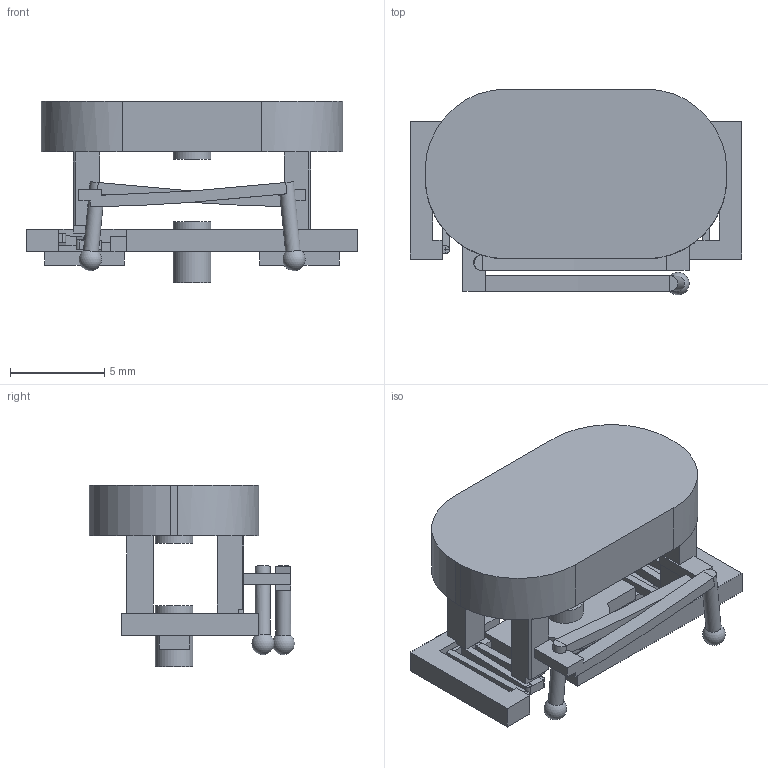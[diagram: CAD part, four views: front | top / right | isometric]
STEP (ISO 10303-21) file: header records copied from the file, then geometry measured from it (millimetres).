
FILE_DESCRIPTION(('FreeCAD Model'),'2;1');
FILE_NAME('Open CASCADE Shape Model','2026-11-13T18:42:29',('FreeCAD'),( 'FreeCAD'),'Open CASCADE STEP processor 7.8','FreeCAD','Unknown');
FILE_SCHEMA(('AUTOMOTIVE_DESIGN { 1 0 10303 214 1 1 1 1 }'));
Length unit declared in the file: millimetre
Products named in the file (1): Open CASCADE STEP translator 7.8 7
Bounding box: 17.6 x 10.9 x 9.65 mm (x, y, z)
Volume: 490.9 mm3; surface area: 911.7 mm2
Topology: 1 solids, 1 shells, 313 faces, 841 edges, 526 vertices
Faces by surface type: plane 270, cylinder 37, bspline 4, sphere 2
Full cylindrical faces by diameter (mm): 0.8 x2, 2 x3
Entity records: 10040 total; most frequent: CARTESIAN_POINT 2195, ORIENTED_EDGE 1678, DIRECTION 1553, EDGE_CURVE 839, LINE 687, VECTOR 687, VERTEX_POINT 526, AXIS2_PLACEMENT_3D 433
